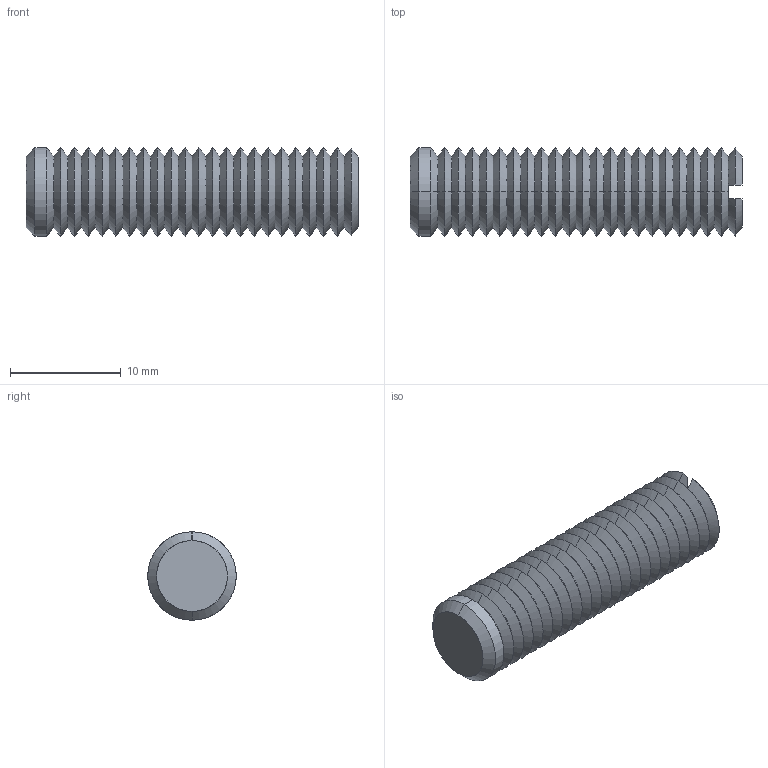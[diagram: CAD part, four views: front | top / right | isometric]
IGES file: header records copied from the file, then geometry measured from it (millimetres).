
Start section: SolidWorks IGES file using analytic representation for surfaces
Global section: file name: C:\Documents and Settings\IANO\Desktop\Temp File\Process pending\EXISTING\34300_v2\34300_v2_20170622_IGES\34300.W0081.igs; native system: SolidWorks 2009; preprocessor: SolidWorks 2009; author: IANO; date: 170622.093737; units: millimetre
Bounding box: 30 x 8 x 8 mm (x, y, z)
Surface area: 1150.7 mm2 (no closed solid volume)
Topology: 0 solids, 0 shells, 100 faces, 464 edges, 464 vertices
Faces by surface type: revolution 94, bspline 6
